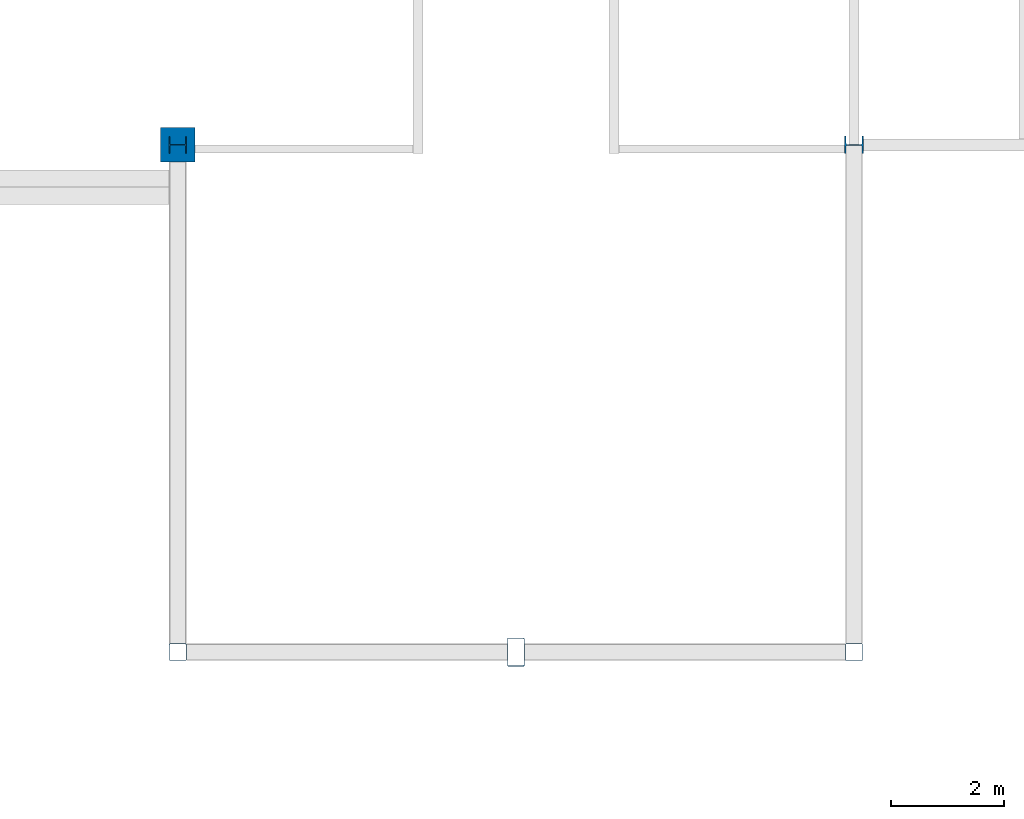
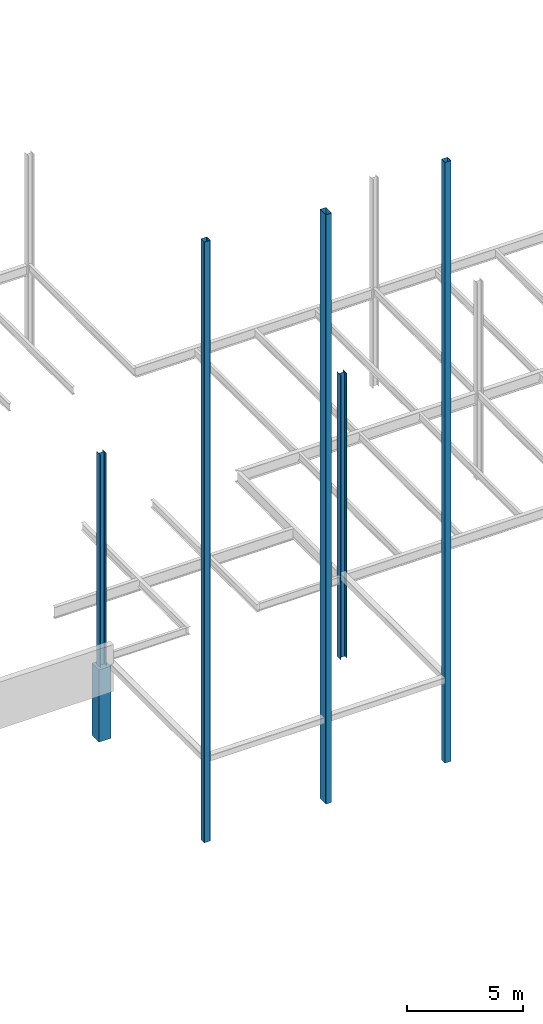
# One storey, part 6 of 19: 6 columns.
"""IFC2X3 building model written with IfcOpenShell, lengths in millimetres."""

from ifc_helpers import new_model, si_unit, origin, place, context, project, spatial, faceted_brep, material, element, save


model = new_model("IFC2X3")

# Units and contexts
context_of_model = context(None, 3, precision=1e-05, world=origin())
ifc_project = project(units=[si_unit("LENGTHUNIT", "METRE", prefix="MILLI")], contexts=[context_of_model])

# Building, storey
building = spatial("IfcBuilding", under=ifc_project, Name="Building", CompositionType="ELEMENT")
storey = spatial("IfcBuildingStorey", under=building, Name="FL2-FRM", CompositionType="ELEMENT")

# Columns
ifc_material_1 = material(Name="A500 grade B")
column_1_placement = place(None, origin())
element("IfcColumn", 1, at=column_1_placement, inside=storey, material=ifc_material_1, Name="Column337", context=context_of_model, shape_type="Brep", body=[
    faceted_brep([(152.5, -1.94289e-12, 0.0), (152.5, 133.5, 0.0), (152.5, 133.5, 31673.0), (152.5, -1.94289e-12, 31673.0), (151.853, 138.418, 0.0), (151.853, 138.418, 31673.0), (149.954, 143.0, 0.0), (149.954, 143.0, 31673.0), (146.935, 146.935, 0.0), (146.935, 146.935, 31673.0), (143.0, 149.954, 0.0), (143.0, 149.954, 31673.0), (138.418, 151.853, 0.0), (138.418, 151.853, 31673.0), (133.5, 152.5, 0.0), (133.5, 152.5, 31673.0), (-133.5, 152.5, 0.0), (-133.5, 152.5, 31673.0), (-138.418, 151.853, 0.0), (-138.418, 151.853, 31673.0), (-143.0, 149.954, 0.0), (-143.0, 149.954, 31673.0), (-146.935, 146.935, 0.0), (-146.935, 146.935, 31673.0), (-149.954, 143.0, 0.0), (-149.954, 143.0, 31673.0), (-151.853, 138.418, 0.0), (-151.853, 138.418, 31673.0), (-152.5, 133.5, 0.0), (-152.5, 133.5, 31673.0), (-152.5, -133.5, 0.0), (-152.5, -133.5, 31673.0), (-151.853, -138.418, 0.0), (-151.853, -138.418, 31673.0), (-149.954, -143.0, 0.0), (-149.954, -143.0, 31673.0), (-146.935, -146.935, 0.0), (-146.935, -146.935, 31673.0), (-143.0, -149.954, 0.0), (-143.0, -149.954, 31673.0), (-138.418, -151.853, 0.0), (-138.418, -151.853, 31673.0), (-133.5, -152.5, 0.0), (-133.5, -152.5, 31673.0), (133.5, -152.5, 0.0), (133.5, -152.5, 31673.0), (138.418, -151.853, 0.0), (138.418, -151.853, 31673.0), (143.0, -149.954, 0.0), (143.0, -149.954, 31673.0), (146.935, -146.935, 0.0), (146.935, -146.935, 31673.0), (149.954, -143.0, 0.0), (149.954, -143.0, 31673.0), (151.853, -138.418, 0.0), (151.853, -138.418, 31673.0), (152.5, -133.5, 0.0), (152.5, -133.5, 31673.0), (143.0, -1.94289e-12, 0.0), (143.0, -133.5, 0.0), (143.0, -133.5, 31673.0), (143.0, -1.94289e-12, 31673.0), (142.676, -135.959, 0.0), (142.676, -135.959, 31673.0), (141.727, -138.25, 0.0), (141.727, -138.25, 31673.0), (140.218, -140.218, 0.0), (140.218, -140.218, 31673.0), (138.25, -141.727, 0.0), (138.25, -141.727, 31673.0), (135.959, -142.676, 0.0), (135.959, -142.676, 31673.0), (133.5, -143.0, 0.0), (133.5, -143.0, 31673.0), (-133.5, -143.0, 0.0), (-133.5, -143.0, 31673.0), (-135.959, -142.676, 0.0), (-135.959, -142.676, 31673.0), (-138.25, -141.727, 0.0), (-138.25, -141.727, 31673.0), (-140.218, -140.218, 0.0), (-140.218, -140.218, 31673.0), (-141.727, -138.25, 0.0), (-141.727, -138.25, 31673.0), (-142.676, -135.959, 0.0), (-142.676, -135.959, 31673.0), (-143.0, -133.5, 0.0), (-143.0, -133.5, 31673.0), (-143.0, 133.5, 0.0), (-143.0, 133.5, 31673.0), (-142.676, 135.959, 0.0), (-142.676, 135.959, 31673.0), (-141.727, 138.25, 0.0), (-141.727, 138.25, 31673.0), (-140.218, 140.218, 0.0), (-140.218, 140.218, 31673.0), (-138.25, 141.727, 0.0), (-138.25, 141.727, 31673.0), (-135.959, 142.676, 0.0), (-135.959, 142.676, 31673.0), (-133.5, 143.0, 0.0), (-133.5, 143.0, 31673.0), (133.5, 143.0, 0.0), (133.5, 143.0, 31673.0), (135.959, 142.676, 0.0), (135.959, 142.676, 31673.0), (138.25, 141.727, 0.0), (138.25, 141.727, 31673.0), (140.218, 140.218, 0.0), (140.218, 140.218, 31673.0), (141.727, 138.25, 0.0), (141.727, 138.25, 31673.0), (142.676, 135.959, 0.0), (142.676, 135.959, 31673.0), (143.0, 133.5, 0.0), (143.0, 133.5, 31673.0)], [[[0, 1, 2, 3]], [[1, 4, 5, 2]], [[4, 6, 7, 5]], [[6, 8, 9, 7]], [[8, 10, 11, 9]], [[10, 12, 13, 11]], [[12, 14, 15, 13]], [[14, 16, 17, 15]], [[16, 18, 19, 17]], [[18, 20, 21, 19]], [[20, 22, 23, 21]], [[22, 24, 25, 23]], [[24, 26, 27, 25]], [[26, 28, 29, 27]], [[28, 30, 31, 29]], [[30, 32, 33, 31]], [[32, 34, 35, 33]], [[34, 36, 37, 35]], [[36, 38, 39, 37]], [[38, 40, 41, 39]], [[40, 42, 43, 41]], [[42, 44, 45, 43]], [[44, 46, 47, 45]], [[46, 48, 49, 47]], [[48, 50, 51, 49]], [[50, 52, 53, 51]], [[52, 54, 55, 53]], [[54, 56, 57, 55]], [[56, 0, 3, 57]], [[58, 59, 60, 61]], [[59, 62, 63, 60]], [[62, 64, 65, 63]], [[64, 66, 67, 65]], [[66, 68, 69, 67]], [[68, 70, 71, 69]], [[70, 72, 73, 71]], [[72, 74, 75, 73]], [[74, 76, 77, 75]], [[76, 78, 79, 77]], [[78, 80, 81, 79]], [[80, 82, 83, 81]], [[82, 84, 85, 83]], [[84, 86, 87, 85]], [[86, 88, 89, 87]], [[88, 90, 91, 89]], [[90, 92, 93, 91]], [[92, 94, 95, 93]], [[94, 96, 97, 95]], [[96, 98, 99, 97]], [[98, 100, 101, 99]], [[100, 102, 103, 101]], [[102, 104, 105, 103]], [[104, 106, 107, 105]], [[106, 108, 109, 107]], [[108, 110, 111, 109]], [[110, 112, 113, 111]], [[112, 114, 115, 113]], [[114, 58, 61, 115]], [[0, 56, 54, 52, 50, 48, 46, 44, 42, 40, 38, 36, 34, 32, 30, 28, 26, 24, 22, 20, 18, 16, 14, 12, 10, 8, 6, 4, 1], [58, 114, 112, 110, 108, 106, 104, 102, 100, 98, 96, 94, 92, 90, 88, 86, 84, 82, 80, 78, 76, 74, 72, 70, 68, 66, 64, 62, 59]], [[3, 2, 5, 7, 9, 11, 13, 15, 17, 19, 21, 23, 25, 27, 29, 31, 33, 35, 37, 39, 41, 43, 45, 47, 49, 51, 53, 55, 57], [61, 60, 63, 65, 67, 69, 71, 73, 75, 77, 79, 81, 83, 85, 87, 89, 91, 93, 95, 97, 99, 101, 103, 105, 107, 109, 111, 113, 115]]]),
])
ifc_material_2 = material(Name="A992")
column_2_placement = place(None, origin())
element("IfcColumn", 2, at=column_2_placement, inside=storey, material=ifc_material_2, Name="Column339", context=context_of_model, shape_type="Brep", body=[
    faceted_brep([(6000.0, 254.0, 0.0), (5872.9, 254.0, 0.0), (5872.9, 254.0, 31070.0), (6000.0, 254.0, 31070.0), (5866.33, 253.135, 0.0), (5866.33, 253.135, 31070.0), (5860.2, 250.597, 0.0), (5860.2, 250.597, 31070.0), (5854.94, 246.561, 0.0), (5854.94, 246.561, 31070.0), (5850.9, 241.3, 0.0), (5850.9, 241.3, 31070.0), (5848.37, 235.174, 0.0), (5848.37, 235.174, 31070.0), (5847.5, 228.6, 0.0), (5847.5, 228.6, 31070.0), (5847.5, -228.6, 0.0), (5847.5, -228.6, 31070.0), (5848.37, -235.174, 0.0), (5848.37, -235.174, 31070.0), (5850.9, -241.3, 0.0), (5850.9, -241.3, 31070.0), (5854.94, -246.561, 0.0), (5854.94, -246.561, 31070.0), (5860.2, -250.597, 0.0), (5860.2, -250.597, 31070.0), (5866.33, -253.135, 0.0), (5866.33, -253.135, 31070.0), (5872.9, -254.0, 0.0), (5872.9, -254.0, 31070.0), (6127.1, -254.0, 0.0), (6127.1, -254.0, 31070.0), (6133.67, -253.135, 0.0), (6133.67, -253.135, 31070.0), (6139.8, -250.597, 0.0), (6139.8, -250.597, 31070.0), (6145.06, -246.561, 0.0), (6145.06, -246.561, 31070.0), (6149.1, -241.3, 0.0), (6149.1, -241.3, 31070.0), (6151.63, -235.174, 0.0), (6151.63, -235.174, 31070.0), (6152.5, -228.6, 0.0), (6152.5, -228.6, 31070.0), (6152.5, 228.6, 0.0), (6152.5, 228.6, 31070.0), (6151.63, 235.174, 0.0), (6151.63, 235.174, 31070.0), (6149.1, 241.3, 0.0), (6149.1, 241.3, 31070.0), (6145.06, 246.561, 0.0), (6145.06, 246.561, 31070.0), (6139.8, 250.597, 0.0), (6139.8, 250.597, 31070.0), (6133.67, 253.135, 0.0), (6133.67, 253.135, 31070.0), (6127.1, 254.0, 0.0), (6127.1, 254.0, 31070.0), (6000.0, 241.3, 0.0), (6127.1, 241.3, 0.0), (6127.1, 241.3, 31070.0), (6000.0, 241.3, 31070.0), (6130.39, 240.867, 0.0), (6130.39, 240.867, 31070.0), (6133.45, 239.599, 0.0), (6133.45, 239.599, 31070.0), (6136.08, 237.58, 0.0), (6136.08, 237.58, 31070.0), (6138.1, 234.95, 0.0), (6138.1, 234.95, 31070.0), (6139.37, 231.887, 0.0), (6139.37, 231.887, 31070.0), (6139.8, 228.6, 0.0), (6139.8, 228.6, 31070.0), (6139.8, -228.6, 0.0), (6139.8, -228.6, 31070.0), (6139.37, -231.887, 0.0), (6139.37, -231.887, 31070.0), (6138.1, -234.95, 0.0), (6138.1, -234.95, 31070.0), (6136.08, -237.58, 0.0), (6136.08, -237.58, 31070.0), (6133.45, -239.599, 0.0), (6133.45, -239.599, 31070.0), (6130.39, -240.867, 0.0), (6130.39, -240.867, 31070.0), (6127.1, -241.3, 0.0), (6127.1, -241.3, 31070.0), (5872.9, -241.3, 0.0), (5872.9, -241.3, 31070.0), (5869.61, -240.867, 0.0), (5869.61, -240.867, 31070.0), (5866.55, -239.599, 0.0), (5866.55, -239.599, 31070.0), (5863.92, -237.58, 0.0), (5863.92, -237.58, 31070.0), (5861.9, -234.95, 0.0), (5861.9, -234.95, 31070.0), (5860.63, -231.887, 0.0), (5860.63, -231.887, 31070.0), (5860.2, -228.6, 0.0), (5860.2, -228.6, 31070.0), (5860.2, 228.6, 0.0), (5860.2, 228.6, 31070.0), (5860.63, 231.887, 0.0), (5860.63, 231.887, 31070.0), (5861.9, 234.95, 0.0), (5861.9, 234.95, 31070.0), (5863.92, 237.58, 0.0), (5863.92, 237.58, 31070.0), (5866.55, 239.599, 0.0), (5866.55, 239.599, 31070.0), (5869.61, 240.867, 0.0), (5869.61, 240.867, 31070.0), (5872.9, 241.3, 0.0), (5872.9, 241.3, 31070.0)], [[[0, 1, 2, 3]], [[1, 4, 5, 2]], [[4, 6, 7, 5]], [[6, 8, 9, 7]], [[8, 10, 11, 9]], [[10, 12, 13, 11]], [[12, 14, 15, 13]], [[14, 16, 17, 15]], [[16, 18, 19, 17]], [[18, 20, 21, 19]], [[20, 22, 23, 21]], [[22, 24, 25, 23]], [[24, 26, 27, 25]], [[26, 28, 29, 27]], [[28, 30, 31, 29]], [[30, 32, 33, 31]], [[32, 34, 35, 33]], [[34, 36, 37, 35]], [[36, 38, 39, 37]], [[38, 40, 41, 39]], [[40, 42, 43, 41]], [[42, 44, 45, 43]], [[44, 46, 47, 45]], [[46, 48, 49, 47]], [[48, 50, 51, 49]], [[50, 52, 53, 51]], [[52, 54, 55, 53]], [[54, 56, 57, 55]], [[56, 0, 3, 57]], [[58, 59, 60, 61]], [[59, 62, 63, 60]], [[62, 64, 65, 63]], [[64, 66, 67, 65]], [[66, 68, 69, 67]], [[68, 70, 71, 69]], [[70, 72, 73, 71]], [[72, 74, 75, 73]], [[74, 76, 77, 75]], [[76, 78, 79, 77]], [[78, 80, 81, 79]], [[80, 82, 83, 81]], [[82, 84, 85, 83]], [[84, 86, 87, 85]], [[86, 88, 89, 87]], [[88, 90, 91, 89]], [[90, 92, 93, 91]], [[92, 94, 95, 93]], [[94, 96, 97, 95]], [[96, 98, 99, 97]], [[98, 100, 101, 99]], [[100, 102, 103, 101]], [[102, 104, 105, 103]], [[104, 106, 107, 105]], [[106, 108, 109, 107]], [[108, 110, 111, 109]], [[110, 112, 113, 111]], [[112, 114, 115, 113]], [[114, 58, 61, 115]], [[0, 56, 54, 52, 50, 48, 46, 44, 42, 40, 38, 36, 34, 32, 30, 28, 26, 24, 22, 20, 18, 16, 14, 12, 10, 8, 6, 4, 1], [58, 114, 112, 110, 108, 106, 104, 102, 100, 98, 96, 94, 92, 90, 88, 86, 84, 82, 80, 78, 76, 74, 72, 70, 68, 66, 64, 62, 59]], [[3, 2, 5, 7, 9, 11, 13, 15, 17, 19, 21, 23, 25, 27, 29, 31, 33, 35, 37, 39, 41, 43, 45, 47, 49, 51, 53, 55, 57], [61, 60, 63, 65, 67, 69, 71, 73, 75, 77, 79, 81, 83, 85, 87, 89, 91, 93, 95, 97, 99, 101, 103, 105, 107, 109, 111, 113, 115]]]),
])
ifc_material_3 = material(Name="A500 grade B")
column_3_placement = place(None, origin())
element("IfcColumn", 3, at=column_3_placement, inside=storey, material=ifc_material_3, Name="Column341", context=context_of_model, shape_type="Brep", body=[
    faceted_brep([(12152.5, -1.94289e-12, 0.0), (12152.5, 133.5, 0.0), (12152.5, 133.5, 31673.0), (12152.5, -1.94289e-12, 31673.0), (12151.9, 138.418, 0.0), (12151.9, 138.418, 31673.0), (12150.0, 143.0, 0.0), (12150.0, 143.0, 31673.0), (12146.9, 146.935, 0.0), (12146.9, 146.935, 31673.0), (12143.0, 149.954, 0.0), (12143.0, 149.954, 31673.0), (12138.4, 151.853, 0.0), (12138.4, 151.853, 31673.0), (12133.5, 152.5, 0.0), (12133.5, 152.5, 31673.0), (11866.5, 152.5, 0.0), (11866.5, 152.5, 31673.0), (11861.6, 151.853, 0.0), (11861.6, 151.853, 31673.0), (11857.0, 149.954, 0.0), (11857.0, 149.954, 31673.0), (11853.1, 146.935, 0.0), (11853.1, 146.935, 31673.0), (11850.0, 143.0, 0.0), (11850.0, 143.0, 31673.0), (11848.1, 138.418, 0.0), (11848.1, 138.418, 31673.0), (11847.5, 133.5, 0.0), (11847.5, 133.5, 31673.0), (11847.5, -133.5, 0.0), (11847.5, -133.5, 31673.0), (11848.1, -138.418, 0.0), (11848.1, -138.418, 31673.0), (11850.0, -143.0, 0.0), (11850.0, -143.0, 31673.0), (11853.1, -146.935, 0.0), (11853.1, -146.935, 31673.0), (11857.0, -149.954, 0.0), (11857.0, -149.954, 31673.0), (11861.6, -151.853, 0.0), (11861.6, -151.853, 31673.0), (11866.5, -152.5, 0.0), (11866.5, -152.5, 31673.0), (12133.5, -152.5, 0.0), (12133.5, -152.5, 31673.0), (12138.4, -151.853, 0.0), (12138.4, -151.853, 31673.0), (12143.0, -149.954, 0.0), (12143.0, -149.954, 31673.0), (12146.9, -146.935, 0.0), (12146.9, -146.935, 31673.0), (12150.0, -143.0, 0.0), (12150.0, -143.0, 31673.0), (12151.9, -138.418, 0.0), (12151.9, -138.418, 31673.0), (12152.5, -133.5, 0.0), (12152.5, -133.5, 31673.0), (12143.0, -1.94289e-12, 0.0), (12143.0, -133.5, 0.0), (12143.0, -133.5, 31673.0), (12143.0, -1.94289e-12, 31673.0), (12142.7, -135.959, 0.0), (12142.7, -135.959, 31673.0), (12141.7, -138.25, 0.0), (12141.7, -138.25, 31673.0), (12140.2, -140.218, 0.0), (12140.2, -140.218, 31673.0), (12138.3, -141.727, 0.0), (12138.3, -141.727, 31673.0), (12136.0, -142.676, 0.0), (12136.0, -142.676, 31673.0), (12133.5, -143.0, 0.0), (12133.5, -143.0, 31673.0), (11866.5, -143.0, 0.0), (11866.5, -143.0, 31673.0), (11864.0, -142.676, 0.0), (11864.0, -142.676, 31673.0), (11861.8, -141.727, 0.0), (11861.8, -141.727, 31673.0), (11859.8, -140.218, 0.0), (11859.8, -140.218, 31673.0), (11858.3, -138.25, 0.0), (11858.3, -138.25, 31673.0), (11857.3, -135.959, 0.0), (11857.3, -135.959, 31673.0), (11857.0, -133.5, 0.0), (11857.0, -133.5, 31673.0), (11857.0, 133.5, 0.0), (11857.0, 133.5, 31673.0), (11857.3, 135.959, 0.0), (11857.3, 135.959, 31673.0), (11858.3, 138.25, 0.0), (11858.3, 138.25, 31673.0), (11859.8, 140.218, 0.0), (11859.8, 140.218, 31673.0), (11861.8, 141.727, 0.0), (11861.8, 141.727, 31673.0), (11864.0, 142.676, 0.0), (11864.0, 142.676, 31673.0), (11866.5, 143.0, 0.0), (11866.5, 143.0, 31673.0), (12133.5, 143.0, 0.0), (12133.5, 143.0, 31673.0), (12136.0, 142.676, 0.0), (12136.0, 142.676, 31673.0), (12138.3, 141.727, 0.0), (12138.3, 141.727, 31673.0), (12140.2, 140.218, 0.0), (12140.2, 140.218, 31673.0), (12141.7, 138.25, 0.0), (12141.7, 138.25, 31673.0), (12142.7, 135.959, 0.0), (12142.7, 135.959, 31673.0), (12143.0, 133.5, 0.0), (12143.0, 133.5, 31673.0)], [[[0, 1, 2, 3]], [[1, 4, 5, 2]], [[4, 6, 7, 5]], [[6, 8, 9, 7]], [[8, 10, 11, 9]], [[10, 12, 13, 11]], [[12, 14, 15, 13]], [[14, 16, 17, 15]], [[16, 18, 19, 17]], [[18, 20, 21, 19]], [[20, 22, 23, 21]], [[22, 24, 25, 23]], [[24, 26, 27, 25]], [[26, 28, 29, 27]], [[28, 30, 31, 29]], [[30, 32, 33, 31]], [[32, 34, 35, 33]], [[34, 36, 37, 35]], [[36, 38, 39, 37]], [[38, 40, 41, 39]], [[40, 42, 43, 41]], [[42, 44, 45, 43]], [[44, 46, 47, 45]], [[46, 48, 49, 47]], [[48, 50, 51, 49]], [[50, 52, 53, 51]], [[52, 54, 55, 53]], [[54, 56, 57, 55]], [[56, 0, 3, 57]], [[58, 59, 60, 61]], [[59, 62, 63, 60]], [[62, 64, 65, 63]], [[64, 66, 67, 65]], [[66, 68, 69, 67]], [[68, 70, 71, 69]], [[70, 72, 73, 71]], [[72, 74, 75, 73]], [[74, 76, 77, 75]], [[76, 78, 79, 77]], [[78, 80, 81, 79]], [[80, 82, 83, 81]], [[82, 84, 85, 83]], [[84, 86, 87, 85]], [[86, 88, 89, 87]], [[88, 90, 91, 89]], [[90, 92, 93, 91]], [[92, 94, 95, 93]], [[94, 96, 97, 95]], [[96, 98, 99, 97]], [[98, 100, 101, 99]], [[100, 102, 103, 101]], [[102, 104, 105, 103]], [[104, 106, 107, 105]], [[106, 108, 109, 107]], [[108, 110, 111, 109]], [[110, 112, 113, 111]], [[112, 114, 115, 113]], [[114, 58, 61, 115]], [[0, 56, 54, 52, 50, 48, 46, 44, 42, 40, 38, 36, 34, 32, 30, 28, 26, 24, 22, 20, 18, 16, 14, 12, 10, 8, 6, 4, 1], [58, 114, 112, 110, 108, 106, 104, 102, 100, 98, 96, 94, 92, 90, 88, 86, 84, 82, 80, 78, 76, 74, 72, 70, 68, 66, 64, 62, 59]], [[3, 2, 5, 7, 9, 11, 13, 15, 17, 19, 21, 23, 25, 27, 29, 31, 33, 35, 37, 39, 41, 43, 45, 47, 49, 51, 53, 55, 57], [61, 60, 63, 65, 67, 69, 71, 73, 75, 77, 79, 81, 83, 85, 87, 89, 91, 93, 95, 97, 99, 101, 103, 105, 107, 109, 111, 113, 115]]]),
])
ifc_material_4 = material(Name="A992")
column_4_placement = place(None, origin())
element("IfcColumn", 4, at=column_4_placement, inside=storey, material=ifc_material_4, Name="Column343", context=context_of_model, shape_type="Brep", body=[
    faceted_brep([(12166.5, 8843.5, 0.0), (12166.5, 9156.5, 0.0), (12166.5, 9156.5, 15000.0), (12166.5, 8843.5, 15000.0), (12138.4, 9156.5, 0.0), (12138.4, 9156.5, 15000.0), (12138.4, 9024.2, 0.0), (12138.4, 9024.2, 15000.0), (12137.9, 9020.27, 0.0), (12137.9, 9020.27, 15000.0), (12136.4, 9016.6, 0.0), (12136.4, 9016.6, 15000.0), (12133.9, 9013.45, 0.0), (12133.9, 9013.45, 15000.0), (12130.8, 9011.04, 0.0), (12130.8, 9011.04, 15000.0), (12127.1, 9009.52, 0.0), (12127.1, 9009.52, 15000.0), (12123.2, 9009.0, 0.0), (12123.2, 9009.0, 15000.0), (11876.8, 9009.0, 0.0), (11876.8, 9009.0, 15000.0), (11872.9, 9009.52, 0.0), (11872.9, 9009.52, 15000.0), (11869.2, 9011.04, 0.0), (11869.2, 9011.04, 15000.0), (11866.1, 9013.45, 0.0), (11866.1, 9013.45, 15000.0), (11863.6, 9016.6, 0.0), (11863.6, 9016.6, 15000.0), (11862.1, 9020.27, 0.0), (11862.1, 9020.27, 15000.0), (11861.6, 9024.2, 0.0), (11861.6, 9024.2, 15000.0), (11861.6, 9156.5, 0.0), (11861.6, 9156.5, 15000.0), (11833.5, 9156.5, 0.0), (11833.5, 9156.5, 15000.0), (11833.5, 8843.5, 0.0), (11833.5, 8843.5, 15000.0), (11861.6, 8843.5, 0.0), (11861.6, 8843.5, 15000.0), (11861.6, 8975.8, 0.0), (11861.6, 8975.8, 15000.0), (11862.1, 8979.73, 0.0), (11862.1, 8979.73, 15000.0), (11863.6, 8983.4, 0.0), (11863.6, 8983.4, 15000.0), (11866.1, 8986.55, 0.0), (11866.1, 8986.55, 15000.0), (11869.2, 8988.96, 0.0), (11869.2, 8988.96, 15000.0), (11872.9, 8990.48, 0.0), (11872.9, 8990.48, 15000.0), (11876.8, 8991.0, 0.0), (11876.8, 8991.0, 15000.0), (12123.2, 8991.0, 0.0), (12123.2, 8991.0, 15000.0), (12127.1, 8990.48, 0.0), (12127.1, 8990.48, 15000.0), (12130.8, 8988.96, 0.0), (12130.8, 8988.96, 15000.0), (12133.9, 8986.55, 0.0), (12133.9, 8986.55, 15000.0), (12136.4, 8983.4, 0.0), (12136.4, 8983.4, 15000.0), (12137.9, 8979.73, 0.0), (12137.9, 8979.73, 15000.0), (12138.4, 8975.8, 0.0), (12138.4, 8975.8, 15000.0), (12138.4, 8843.5, 0.0), (12138.4, 8843.5, 15000.0)], [[[0, 1, 2, 3]], [[1, 4, 5, 2]], [[4, 6, 7, 5]], [[6, 8, 9, 7]], [[8, 10, 11, 9]], [[10, 12, 13, 11]], [[12, 14, 15, 13]], [[14, 16, 17, 15]], [[16, 18, 19, 17]], [[18, 20, 21, 19]], [[20, 22, 23, 21]], [[22, 24, 25, 23]], [[24, 26, 27, 25]], [[26, 28, 29, 27]], [[28, 30, 31, 29]], [[30, 32, 33, 31]], [[32, 34, 35, 33]], [[34, 36, 37, 35]], [[36, 38, 39, 37]], [[38, 40, 41, 39]], [[40, 42, 43, 41]], [[42, 44, 45, 43]], [[44, 46, 47, 45]], [[46, 48, 49, 47]], [[48, 50, 51, 49]], [[50, 52, 53, 51]], [[52, 54, 55, 53]], [[54, 56, 57, 55]], [[56, 58, 59, 57]], [[58, 60, 61, 59]], [[60, 62, 63, 61]], [[62, 64, 65, 63]], [[64, 66, 67, 65]], [[66, 68, 69, 67]], [[68, 70, 71, 69]], [[70, 0, 3, 71]], [[0, 70, 68, 66, 64, 62, 60, 58, 56, 54, 52, 50, 48, 46, 44, 42, 40, 38, 36, 34, 32, 30, 28, 26, 24, 22, 20, 18, 16, 14, 12, 10, 8, 6, 4, 1]], [[3, 2, 5, 7, 9, 11, 13, 15, 17, 19, 21, 23, 25, 27, 29, 31, 33, 35, 37, 39, 41, 43, 45, 47, 49, 51, 53, 55, 57, 59, 61, 63, 65, 67, 69, 71]]]),
])
ifc_material_5 = material(Name="A992")
column_5_placement = place(None, origin())
element("IfcColumn", 5, at=column_5_placement, inside=storey, material=ifc_material_5, Name="Column345", context=context_of_model, shape_type="Brep", body=[
    faceted_brep([(154.0, 8847.5, 3800.0), (154.0, 9152.5, 3800.0), (154.0, 9152.5, 15000.0), (154.0, 8847.5, 15000.0), (138.6, 9152.5, 3800.0), (138.6, 9152.5, 15000.0), (138.6, 9020.15, 3800.0), (138.6, 9020.15, 15000.0), (138.082, 9016.22, 3800.0), (138.082, 9016.22, 15000.0), (136.564, 9012.55, 3800.0), (136.564, 9012.55, 15000.0), (134.148, 9009.4, 3800.0), (134.148, 9009.4, 15000.0), (131.0, 9006.99, 3800.0), (131.0, 9006.99, 15000.0), (127.334, 9005.47, 3800.0), (127.334, 9005.47, 15000.0), (123.4, 9004.95, 3800.0), (123.4, 9004.95, 15000.0), (-123.4, 9004.95, 3800.0), (-123.4, 9004.95, 15000.0), (-127.334, 9005.47, 3800.0), (-127.334, 9005.47, 15000.0), (-131.0, 9006.99, 3800.0), (-131.0, 9006.99, 15000.0), (-134.148, 9009.4, 3800.0), (-134.148, 9009.4, 15000.0), (-136.564, 9012.55, 3800.0), (-136.564, 9012.55, 15000.0), (-138.082, 9016.22, 3800.0), (-138.082, 9016.22, 15000.0), (-138.6, 9020.15, 3800.0), (-138.6, 9020.15, 15000.0), (-138.6, 9152.5, 3800.0), (-138.6, 9152.5, 15000.0), (-154.0, 9152.5, 3800.0), (-154.0, 9152.5, 15000.0), (-154.0, 8847.5, 3800.0), (-154.0, 8847.5, 15000.0), (-138.6, 8847.5, 3800.0), (-138.6, 8847.5, 15000.0), (-138.6, 8979.85, 3800.0), (-138.6, 8979.85, 15000.0), (-138.082, 8983.78, 3800.0), (-138.082, 8983.78, 15000.0), (-136.564, 8987.45, 3800.0), (-136.564, 8987.45, 15000.0), (-134.148, 8990.6, 3800.0), (-134.148, 8990.6, 15000.0), (-131.0, 8993.01, 3800.0), (-131.0, 8993.01, 15000.0), (-127.334, 8994.53, 3800.0), (-127.334, 8994.53, 15000.0), (-123.4, 8995.05, 3800.0), (-123.4, 8995.05, 15000.0), (123.4, 8995.05, 3800.0), (123.4, 8995.05, 15000.0), (127.334, 8994.53, 3800.0), (127.334, 8994.53, 15000.0), (131.0, 8993.01, 3800.0), (131.0, 8993.01, 15000.0), (134.148, 8990.6, 3800.0), (134.148, 8990.6, 15000.0), (136.564, 8987.45, 3800.0), (136.564, 8987.45, 15000.0), (138.082, 8983.78, 3800.0), (138.082, 8983.78, 15000.0), (138.6, 8979.85, 3800.0), (138.6, 8979.85, 15000.0), (138.6, 8847.5, 3800.0), (138.6, 8847.5, 15000.0)], [[[0, 1, 2, 3]], [[1, 4, 5, 2]], [[4, 6, 7, 5]], [[6, 8, 9, 7]], [[8, 10, 11, 9]], [[10, 12, 13, 11]], [[12, 14, 15, 13]], [[14, 16, 17, 15]], [[16, 18, 19, 17]], [[18, 20, 21, 19]], [[20, 22, 23, 21]], [[22, 24, 25, 23]], [[24, 26, 27, 25]], [[26, 28, 29, 27]], [[28, 30, 31, 29]], [[30, 32, 33, 31]], [[32, 34, 35, 33]], [[34, 36, 37, 35]], [[36, 38, 39, 37]], [[38, 40, 41, 39]], [[40, 42, 43, 41]], [[42, 44, 45, 43]], [[44, 46, 47, 45]], [[46, 48, 49, 47]], [[48, 50, 51, 49]], [[50, 52, 53, 51]], [[52, 54, 55, 53]], [[54, 56, 57, 55]], [[56, 58, 59, 57]], [[58, 60, 61, 59]], [[60, 62, 63, 61]], [[62, 64, 65, 63]], [[64, 66, 67, 65]], [[66, 68, 69, 67]], [[68, 70, 71, 69]], [[70, 0, 3, 71]], [[0, 70, 68, 66, 64, 62, 60, 58, 56, 54, 52, 50, 48, 46, 44, 42, 40, 38, 36, 34, 32, 30, 28, 26, 24, 22, 20, 18, 16, 14, 12, 10, 8, 6, 4, 1]], [[3, 2, 5, 7, 9, 11, 13, 15, 17, 19, 21, 23, 25, 27, 29, 31, 33, 35, 37, 39, 41, 43, 45, 47, 49, 51, 53, 55, 57, 59, 61, 63, 65, 67, 69, 71]]]),
])
ifc_material_6 = material(Name="C5000")
column_6_placement = place(None, origin())
element("IfcColumn", 6, at=column_6_placement, inside=storey, material=ifc_material_6, Name="Column626", context=context_of_model, shape_type="Brep", body=[
    faceted_brep([(-304.8, 8695.2, 0.0), (304.8, 8695.2, 0.0), (304.8, 8695.2, 3800.0), (-304.8, 8695.2, 3800.0), (304.8, 9304.8, 0.0), (304.8, 9304.8, 3800.0), (-304.8, 9304.8, 0.0), (-304.8, 9304.8, 3800.0)], [[[0, 1, 2, 3]], [[1, 4, 5, 2]], [[4, 6, 7, 5]], [[6, 0, 3, 7]], [[0, 6, 4, 1]], [[3, 2, 5, 7]]]),
])

save(model, "model.ifc")
